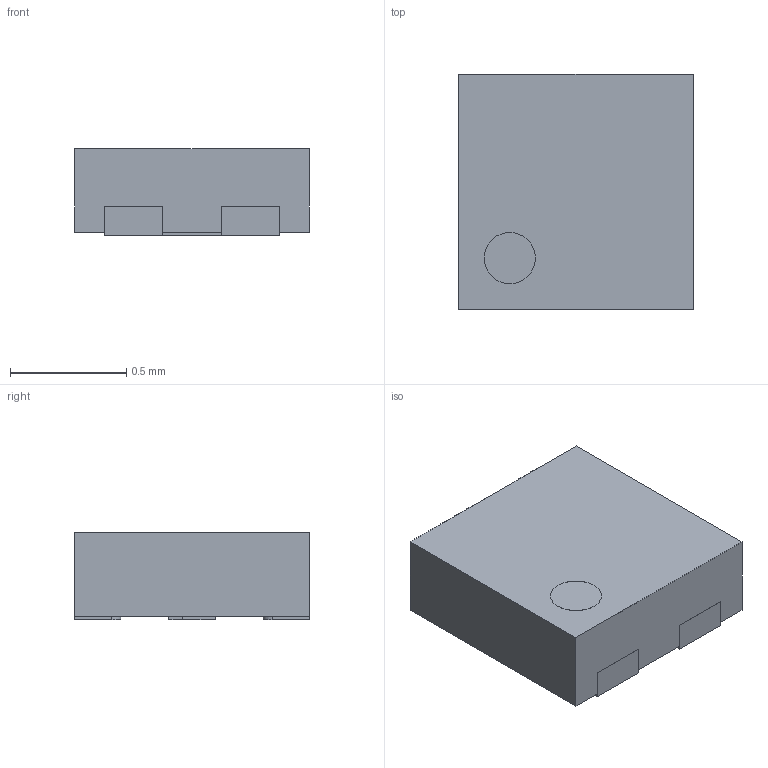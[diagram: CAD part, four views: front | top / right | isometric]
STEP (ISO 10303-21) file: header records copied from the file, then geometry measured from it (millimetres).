
FILE_DESCRIPTION(/* description */ (''),/* implementation_level */ '2;1');
FILE_NAME(/* name */ 'K:\ba\DCC\STP_Files\LLP1010-5L_3906_04_007\39060407.stp',/* time_stamp */ '2014-12-29T14:54:56+01:00',/* author */ ('brotzinger'),/* organization */ (''),/* preprocessor_version */ 'ST-DEVELOPER v15.2',/* originating_system */ 'Autodesk Inventor 2014',/* authorisation */ '');
FILE_SCHEMA (('AUTOMOTIVE_DESIGN { 1 0 10303 214 3 1 1 }'));
Length unit declared in the file: millimetre
Products named in the file (1): 39060407
Bounding box: 1.01 x 1.01 x 0.38 mm (x, y, z)
Volume: 0.4 mm3; surface area: 3.6 mm2
Topology: 1 solids, 1 shells, 46 faces, 126 edges, 84 vertices
Faces by surface type: plane 37, cylinder 9
Full cylindrical faces by diameter (mm): 0.22 x1
Entity records: 1514 total; most frequent: CARTESIAN_POINT 256, ORIENTED_EDGE 250, DIRECTION 237, EDGE_CURVE 125, LINE 107, VECTOR 107, VERTEX_POINT 84, AXIS2_PLACEMENT_3D 65
